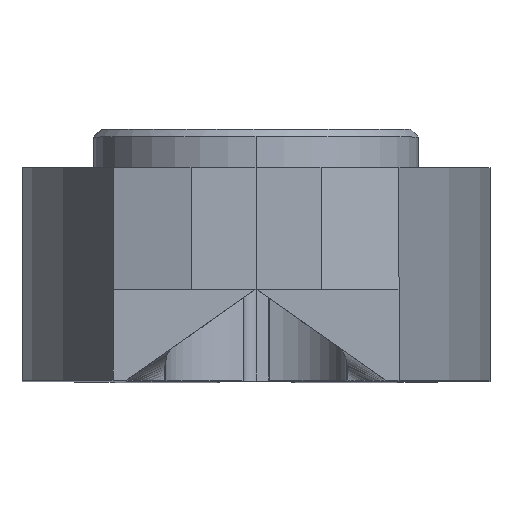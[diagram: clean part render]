
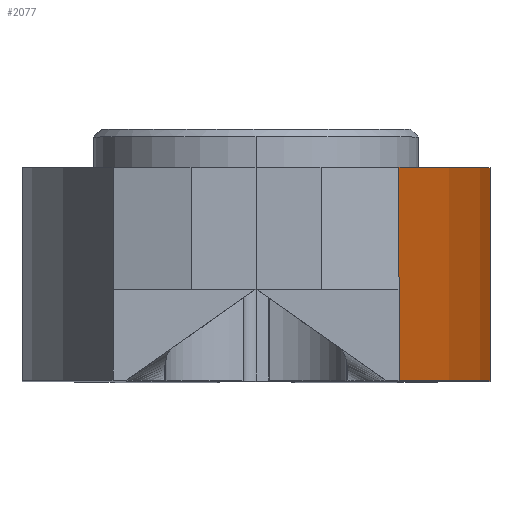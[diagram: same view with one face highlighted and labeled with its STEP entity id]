
A CAD part, top view. The second image highlights one B-rep face of the part: STEP entity #2077.
In plain terms, the highlighted cylindrical face has radius 35 mm (diameter 70 mm), a partial arc.
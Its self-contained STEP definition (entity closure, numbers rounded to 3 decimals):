
#8 = CYLINDRICAL_SURFACE ( 'NONE', #3592, 35. ) ;
#67 = DIRECTION ( 'NONE',  ( 0., -1., 0. ) ) ;
#451 = VECTOR ( 'NONE', #1014, 1000. ) ;
#531 = VECTOR ( 'NONE', #67, 1000. ) ;
#977 = CARTESIAN_POINT ( 'NONE',  ( 9., 4.1, 10.94 ) ) ;
#1014 = DIRECTION ( 'NONE',  ( 0., -1., 0. ) ) ;
#1208 = CARTESIAN_POINT ( 'NONE',  ( 5.5, 4.1, 26.196 ) ) ;
#1414 = ORIENTED_EDGE ( 'NONE', *, *, #1482, .F. ) ;
#1482 = EDGE_CURVE ( 'NONE', #3710, #3596, #4024, .T. ) ;
#1648 = EDGE_CURVE ( 'NONE', #3596, #4193, #2675, .T. ) ;
#1882 = CARTESIAN_POINT ( 'NONE',  ( 5.5, 8.2, 26.196 ) ) ;
#1884 = CARTESIAN_POINT ( 'NONE',  ( 6.647, 0., 23.828 ) ) ;
#1967 = CARTESIAN_POINT ( 'NONE',  ( -26., 0., 10.94 ) ) ;
#2051 = CARTESIAN_POINT ( 'NONE',  ( -26., 8.2, 10.94 ) ) ;
#2077 = ADVANCED_FACE ( 'NONE', ( #3165 ), #8, .T. ) ;
#2109 = B_SPLINE_CURVE_WITH_KNOTS ( 'NONE', 3,
 ( #4351, #1884, #4768, #2297, #5183, #2691 ),
 .UNSPECIFIED., .F., .F.,
 ( 4, 2, 4 ),
 ( 0., 0.5, 1. ),
 .UNSPECIFIED. ) ;
#2114 = EDGE_CURVE ( 'NONE', #3710, #4575, #4015, .T. ) ;
#2237 = CARTESIAN_POINT ( 'NONE',  ( 5.5, 3.5, 26.196 ) ) ;
#2297 = CARTESIAN_POINT ( 'NONE',  ( 8.702, 0., 16.202 ) ) ;
#2361 = DIRECTION ( 'NONE',  ( 0., 1., 0. ) ) ;
#2379 = ORIENTED_EDGE ( 'NONE', *, *, #4355, .T. ) ;
#2507 = EDGE_LOOP ( 'NONE', ( #1414, #4048, #2379, #4863, #5033 ) ) ;
#2635 = LINE ( 'NONE', #3222, #531 ) ;
#2675 = LINE ( 'NONE', #977, #451 ) ;
#2691 = CARTESIAN_POINT ( 'NONE',  ( 9., 0., 10.94 ) ) ;
#2767 = DIRECTION ( 'NONE',  ( 0., 0., 1. ) ) ;
#2963 = AXIS2_PLACEMENT_3D ( 'NONE', #2051, #3772, #3417 ) ;
#3165 = FACE_OUTER_BOUND ( 'NONE', #2507, .T. ) ;
#3222 = CARTESIAN_POINT ( 'NONE',  ( 5.5, 4.1, 26.196 ) ) ;
#3290 = VECTOR ( 'NONE', #4016, 1000. ) ;
#3417 = DIRECTION ( 'NONE',  ( 0., 0., 1. ) ) ;
#3592 = AXIS2_PLACEMENT_3D ( 'NONE', #1967, #2361, #2767 ) ;
#3596 = VERTEX_POINT ( 'NONE', #4637 ) ;
#3710 = VERTEX_POINT ( 'NONE', #1882 ) ;
#3772 = DIRECTION ( 'NONE',  ( 0., 1., 0. ) ) ;
#4015 = LINE ( 'NONE', #1208, #3290 ) ;
#4016 = DIRECTION ( 'NONE',  ( 0., -1., 0. ) ) ;
#4024 = CIRCLE ( 'NONE', #2963, 35. ) ;
#4048 = ORIENTED_EDGE ( 'NONE', *, *, #2114, .T. ) ;
#4193 = VERTEX_POINT ( 'NONE', #4712 ) ;
#4351 = CARTESIAN_POINT ( 'NONE',  ( 5.5, 0., 26.196 ) ) ;
#4355 = EDGE_CURVE ( 'NONE', #4575, #5194, #2635, .T. ) ;
#4403 = CARTESIAN_POINT ( 'NONE',  ( 5.5, 0., 26.196 ) ) ;
#4575 = VERTEX_POINT ( 'NONE', #2237 ) ;
#4637 = CARTESIAN_POINT ( 'NONE',  ( 9., 8.2, 10.94 ) ) ;
#4712 = CARTESIAN_POINT ( 'NONE',  ( 9., 0., 10.94 ) ) ;
#4768 = CARTESIAN_POINT ( 'NONE',  ( 7.525, 0., 21.331 ) ) ;
#4863 = ORIENTED_EDGE ( 'NONE', *, *, #5129, .T. ) ;
#5033 = ORIENTED_EDGE ( 'NONE', *, *, #1648, .F. ) ;
#5129 = EDGE_CURVE ( 'NONE', #5194, #4193, #2109, .T. ) ;
#5183 = CARTESIAN_POINT ( 'NONE',  ( 9., 0., 13.571 ) ) ;
#5194 = VERTEX_POINT ( 'NONE', #4403 ) ;
